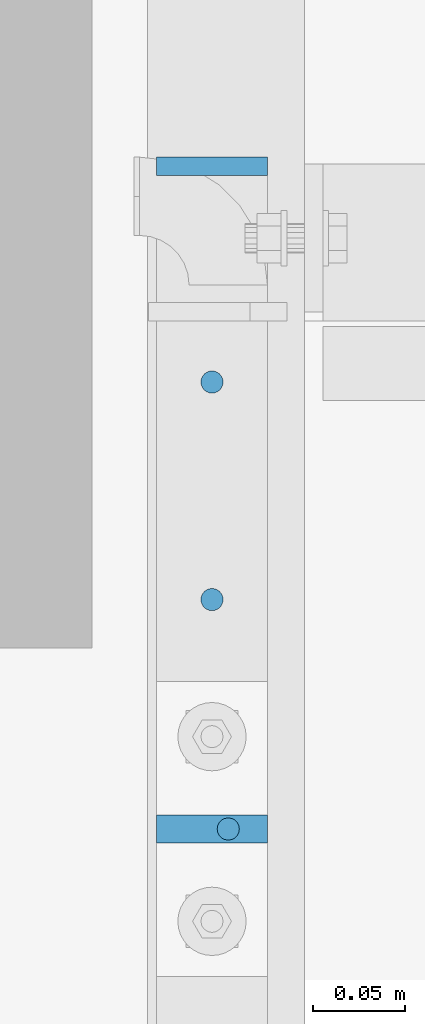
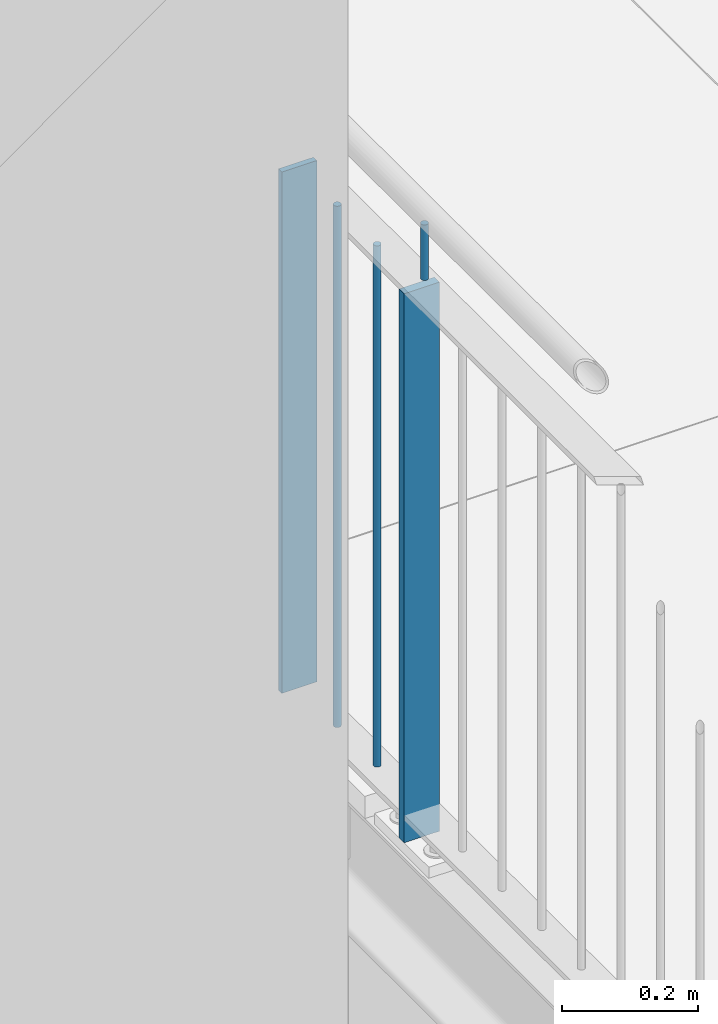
# One storey, part 17 of 825: 5 columns.
"""IFC2X3 building model written with IfcOpenShell, lengths in millimetres."""

import ifcopenshell
import ifcopenshell.guid

model = None  # the IFC model being written
_history = None  # IfcOwnerHistory: only IFC2X3 demands one
_inside = {}  # id of a spatial element -> (the spatial element, [elements in it])
_under = {}  # id of a project, library or spatial element -> (it, [spatial elements below it])
_declared = {}  # id of a project -> (the project, [libraries it declares])
_typed = {}  # id of a type object -> (the type object, [elements of that type])
_made_of = {}  # id of a material, layer set ... -> (it, [elements and type objects made of it])


def new_model(schema):
    """Start an empty IFC model of exactly this schema.

    Asked for "IFC4X3", IfcOpenShell would pick the latest addendum, in which some entities
    have other attributes; the version numbers below select the first issue.
    IFC2X3 requires an IfcOwnerHistory on every rooted entity: one is made here for all.
    """
    global model, _history
    if schema == "IFC4X3":
        model = ifcopenshell.file(schema_version=(4, 3, 0, 0))
    else:
        model = ifcopenshell.file(schema=schema)
    _inside.clear()
    _under.clear()
    _declared.clear()
    _typed.clear()
    _made_of.clear()
    _history = None
    if model.schema == "IFC2X3":
        org = make("IfcOrganization", Name="unknown")
        user = make(
            "IfcPersonAndOrganization",
            ThePerson=make("IfcPerson", FamilyName="unknown"),
            TheOrganization=org,
        )
        app = make(
            "IfcApplication",
            ApplicationDeveloper=org,
            Version="unknown",
            ApplicationFullName="unknown",
            ApplicationIdentifier="unknown",
        )
        _history = make(
            "IfcOwnerHistory",
            OwningUser=user,
            OwningApplication=app,
            ChangeAction="ADDED",
            CreationDate=0,
        )
    return model


def make(cls, **values):
    """One entity of the class cls with the attributes given. An attribute that is None is left unset."""
    return model.create_entity(
        cls, **{name: value for name, value in values.items() if value is not None}
    )


def entity(cls, *values):
    """Any entity or typed value of the class cls, its attributes in the order of the schema. None: left unset."""
    e = model.create_entity(cls)
    for i, value in enumerate(values):
        if value is not None:
            e[i] = value
    return e


def rooted(cls, **values):
    """An entity with a GlobalId (a new one), such as an element, a storey or a relation."""
    return make(cls, GlobalId=ifcopenshell.guid.new(), OwnerHistory=_history, **values)


def si_unit(unit_type, name, prefix=None):
    """IfcSIUnit, for example si_unit("LENGTHUNIT", "METRE", prefix="MILLI")."""
    return make("IfcSIUnit", UnitType=unit_type, Prefix=prefix, Name=name)


def converted_unit(unit_type, name, factor, base, dimensions=None, offset=None):
    """IfcConversionBasedUnit, such as the inch: factor (a typed value) times the base unit."""
    return make(
        "IfcConversionBasedUnit"
        if offset is None
        else "IfcConversionBasedUnitWithOffset",
        ConversionOffset=offset,
        Dimensions=None
        if dimensions is None
        else entity("IfcDimensionalExponents", *dimensions),
        UnitType=unit_type,
        Name=name,
        ConversionFactor=make(
            "IfcMeasureWithUnit", ValueComponent=factor, UnitComponent=base
        ),
    )


def assignment(units):
    """IfcUnitAssignment: the units of a project."""
    return None if units is None else make("IfcUnitAssignment", Units=units)


def point(xyz):
    """IfcCartesianPoint."""
    return None if xyz is None else make("IfcCartesianPoint", Coordinates=xyz)


def direction(xyz):
    """IfcDirection."""
    return None if xyz is None else make("IfcDirection", DirectionRatios=xyz)


def frame(location, z_axis=None, x_axis=None):
    """IfcAxis2Placement3D, a coordinate frame: its origin and axes. An axis left out is left unset."""
    return make(
        "IfcAxis2Placement3D",
        Location=point(location),
        Axis=direction(z_axis),
        RefDirection=direction(x_axis),
    )


def frame_2d(location, x_axis=None):
    """IfcAxis2Placement2D, a coordinate frame in the plane: its origin and x axis."""
    return make(
        "IfcAxis2Placement2D", Location=point(location), RefDirection=direction(x_axis)
    )


def origin():
    """The frame at (0, 0, 0) with its axes left unset."""
    return frame((0.0, 0.0, 0.0))


def origin_with_axes():
    """The frame at (0, 0, 0) with the z axis (0, 0, 1) and the x axis (1, 0, 0) written out."""
    return frame((0.0, 0.0, 0.0), z_axis=(0.0, 0.0, 1.0), x_axis=(1.0, 0.0, 0.0))


def origin_2d():
    """The frame at (0, 0) in the plane with its x axis left unset."""
    return frame_2d((0.0, 0.0))


def place(relative_to, where):
    """IfcLocalPlacement: puts the frame where relative to a parent placement (None: the world)."""
    return make(
        "IfcLocalPlacement", PlacementRelTo=relative_to, RelativePlacement=where
    )


def context(
    kind, dimensions, precision=None, world=None, true_north=None, identifier=None
):
    """IfcGeometricRepresentationContext, for example the 3D "Model" context."""
    return make(
        "IfcGeometricRepresentationContext",
        ContextIdentifier=identifier,
        ContextType=kind,
        CoordinateSpaceDimension=dimensions,
        Precision=precision,
        WorldCoordinateSystem=world,
        TrueNorth=true_north,
    )


def project(units=None, contexts=None):
    """IfcProject with its units and contexts."""
    return rooted(
        "IfcProject",
        Name="project",
        RepresentationContexts=contexts,
        UnitsInContext=assignment(units),
    )


def spatial(cls, under=None, at=None, **own):
    """A site, building, storey or space (cls), placed at a placement, below another one or the project."""
    s = rooted(cls, ObjectPlacement=at, **own)
    if under is not None:
        _under.setdefault(under.id(), (under, []))[1].append(s)
    return s


def profile(cls, at=None, kind="AREA", **sizes):
    """A parametric profile (cls). Its sizes go by their IFC names, for example OverallWidth=200.0."""
    return make(cls, ProfileType=kind, Position=at, **sizes)


def rectangle(**sizes):
    """IfcRectangleProfileDef."""
    return profile("IfcRectangleProfileDef", **sizes)


def circle(**sizes):
    """IfcCircleProfileDef."""
    return profile("IfcCircleProfileDef", **sizes)


def extrude(swept, where, along, depth):
    """IfcExtrudedAreaSolid: the profile swept, set in the frame where, extruded along a direction by depth."""
    return make(
        "IfcExtrudedAreaSolid",
        SweptArea=swept,
        Position=where,
        ExtrudedDirection=direction(along),
        Depth=depth,
    )


def clip(a, b, op="DIFFERENCE"):
    """IfcBooleanClippingResult: the solid a cut by the half space b."""
    return make(
        "IfcBooleanClippingResult", Operator=op, FirstOperand=a, SecondOperand=b
    )


def halfspace(plane, agree):
    """IfcHalfSpaceSolid: all space on one side of the plane z = 0 of the frame plane."""
    return make(
        "IfcHalfSpaceSolid",
        BaseSurface=make("IfcPlane", Position=plane),
        AgreementFlag=agree,
    )


def shape(context_of_items, identifier, shape_type, items):
    """IfcShapeRepresentation: the items that make up one representation, for example the "Body"."""
    return make(
        "IfcShapeRepresentation",
        ContextOfItems=context_of_items,
        RepresentationIdentifier=identifier,
        RepresentationType=shape_type,
        Items=items,
    )


def material(Name=None, Category=None):
    """IfcMaterial."""
    return make("IfcMaterial", Name=Name, Category=Category)


def made_of(thing, what):
    """Note that an element or type object is made of a material, layer set ...; save() writes the relation."""
    if what is not None:
        _made_of.setdefault(what.id(), (what, []))[1].append(thing)
    return thing


def element(
    cls,
    number,
    at=None,
    inside=None,
    cuts=None,
    type_object=None,
    material=None,
    context=None,
    identifier="Body",
    shape_type=None,
    held_by="IfcProductDefinitionShape",
    body=None,
    shapes=None,
    **own,
):
    """One element of the class cls, such as IfcWall. Its Tag is "e" and its number.

    at: its placement. inside: the storey or other place that contains it. cuts: it is an
    opening in that element (IfcRelVoidsElement). A single representation is given by context,
    identifier, shape_type and body (its items); several are given by shapes. held_by: the class
    of the entity that holds the representations. save() writes the other relations.
    """
    e = rooted(cls, Tag="e%d" % number, ObjectPlacement=at, **own)
    if body is not None:
        shapes = [shape(context, identifier, shape_type, body)]
    if shapes is not None:
        e.Representation = make(held_by, Representations=shapes)
    if inside is not None:
        _inside.setdefault(inside.id(), (inside, []))[1].append(e)
    if cuts is not None:
        rooted(
            "IfcRelVoidsElement", RelatingBuildingElement=cuts, RelatedOpeningElement=e
        )
    if type_object is not None:
        _typed.setdefault(type_object.id(), (type_object, []))[1].append(e)
    return made_of(e, material)


def aggregate(whole, parts):
    """IfcRelAggregates: a whole, such as a stair, and the parts it consists of."""
    return rooted("IfcRelAggregates", RelatingObject=whole, RelatedObjects=parts)


def save(model, path):
    """Write the relations noted so far, then the file.

    IfcRelAggregates (storeys below a building ...), IfcRelContainedInSpatialStructure (elements
    in a storey), IfcRelDefinesByType, IfcRelAssociatesMaterial and IfcRelDeclares: one each for
    every whole, place, type object, material and project.
    """
    for whole, parts in _under.values():
        aggregate(whole, parts)
    for where, things in _inside.values():
        rooted(
            "IfcRelContainedInSpatialStructure",
            RelatedElements=things,
            RelatingStructure=where,
        )
    for kind, things in _typed.values():
        rooted("IfcRelDefinesByType", RelatedObjects=things, RelatingType=kind)
    for what, things in _made_of.values():
        rooted("IfcRelAssociatesMaterial", RelatedObjects=things, RelatingMaterial=what)
    for by, libraries in _declared.values():
        rooted("IfcRelDeclares", RelatingContext=by, RelatedDefinitions=libraries)
    model.write(path)


model = new_model("IFC2X3")

# Units and contexts
model_context = context("Model", 3, precision=1e-09, world=origin_with_axes())
ifc_project = project(units=[si_unit("LENGTHUNIT", "METRE", prefix="MILLI"), si_unit("AREAUNIT", "SQUARE_METRE"), si_unit("VOLUMEUNIT", "CUBIC_METRE"), converted_unit("PLANEANGLEUNIT", "DEGREE", entity("IfcPlaneAngleMeasure", 0.01745329), si_unit("PLANEANGLEUNIT", "RADIAN"), dimensions=[0, 0, 0, 0, 0, 0, 0])], contexts=[model_context])

# Site, building, storey
site_placement = place(None, origin_with_axes())
site = spatial("IfcSite", under=ifc_project, at=site_placement, Name="Cnopf'sche Kinderklinik", CompositionType="ELEMENT")
building_placement = place(site_placement, origin_with_axes())
building = spatial("IfcBuilding", under=site, at=building_placement, Name="Struktur 1", CompositionType="ELEMENT")
storey_placement = place(building_placement, origin_with_axes())
storey = spatial("IfcBuildingStorey", under=building, at=storey_placement, Name="Default Storey", CompositionType="ELEMENT", Elevation=0.0)

# Columns
ifc_material = material(Name="S235JR")
column_1_placement = place(None, frame((3271.713402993, 5585.988971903, 4869.285281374), z_axis=(0.0, 0.0, -1.0), x_axis=(0.0, -1.0, 0.0)))
element("IfcColumn", 1, at=column_1_placement, inside=storey, material=ifc_material, Name="Railing_Picket_Landing#97", ObjectType="Railing_Picket_Landing#97", context=model_context, shape_type="Clipping", body=[
    clip(clip(extrude(circle(Radius=6.0, at=origin_2d()), origin(), (0.0, 0.0, 1.0), 965.770562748), halfspace(frame((5585.988971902, 3271.713402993, 13.486281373), z_axis=(0.0, 0.0, 1.0), x_axis=(0.0, 1.0, 0.0)), True)), halfspace(frame((5585.988971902, 3271.713402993, 952.284281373), z_axis=(0.0, 0.0, -1.0), x_axis=(0.0, -1.0, 0.0)), True)),
])
column_2_placement = place(None, frame((3271.713402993, 5703.786135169, 4869.285281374), z_axis=(0.0, 0.0, -1.0), x_axis=(0.0, -1.0, 0.0)))
element("IfcColumn", 2, at=column_2_placement, inside=storey, material=ifc_material, Name="Railing_Picket_Landing#96", ObjectType="Railing_Picket_Landing#96", context=model_context, shape_type="Clipping", body=[
    clip(clip(extrude(circle(Radius=6.0, at=origin_2d()), origin(), (0.0, 0.0, 1.0), 965.770562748), halfspace(frame((5703.786135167, 3271.713402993, 13.486281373), z_axis=(0.0, 0.0, 1.0), x_axis=(0.0, 1.0, 0.0)), True)), halfspace(frame((5703.786135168, 3271.713402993, 952.284281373), z_axis=(0.0, 0.0, -1.0), x_axis=(0.0, -1.0, 0.0)), True)),
])
column_3_placement = place(None, frame((3271.713402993, 5820.583298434, 3917.0), z_axis=(0.0, 0.0, -1.0), x_axis=(0.0, 1.0, 0.0)))
element("IfcColumn", 3, at=column_3_placement, inside=storey, material=ifc_material, Name="Railing_Kneerail_Landing#22", ObjectType="Railing_Kneerail_Landing#22", context=model_context, shape_type="SweptSolid", body=[
    extrude(rectangle(XDim=10.0, YDim=60.0, at=origin_2d()), origin(), (0.0, 0.0, -1.0), 938.8),
])
column_4_placement = place(None, frame((3271.713402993, 5461.738971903, 4886.723292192), z_axis=(0.0, 0.0, 1.0), x_axis=(0.0, 1.0, 0.0)))
element("IfcColumn", 4, at=column_4_placement, inside=storey, material=ifc_material, Name="Railing_Post_Landing#13", ObjectType="Railing_Post_Landing#13", context=model_context, shape_type="Clipping", body=[
    clip(clip(extrude(rectangle(XDim=15.0, YDim=60.0, at=origin_2d()), origin(), (0.0, 0.0, -1.0), 1070.646584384), halfspace(frame((-5461.738971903, 3271.713402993, -1019.722292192), z_axis=(0.0, 0.0, 1.0), x_axis=(0.0, -1.0, 0.0)), True)), halfspace(frame((-5461.738971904, 3271.713402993, -30.924292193), z_axis=(0.0, 0.0, -1.0), x_axis=(0.0, 1.0, 0.0)), True)),
])
column_5_placement = place(None, frame((3280.513402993, 5461.738971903, 4974.285281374), z_axis=(0.0, 0.0, 1.0), x_axis=(1.0, 0.0, 0.0)))
element("IfcColumn", 5, at=column_5_placement, inside=storey, material=ifc_material, Name="Bar#13", ObjectType="Bar#13", context=model_context, shape_type="Clipping", body=[
    clip(clip(extrude(circle(Radius=6.0, at=origin_2d()), origin(), (0.0, 0.0, -1.0), 116.970562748), halfspace(frame((-3280.513402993, -5461.738971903, -8.486281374), z_axis=(0.0, 0.0, -1.0), x_axis=(-1.0, 0.0, 0.0)), True)), halfspace(frame((-3280.513402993, -5461.738971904, -108.484281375), z_axis=(0.0, 0.0, 1.0), x_axis=(1.0, 0.0, 0.0)), True)),
])

save(model, "model.ifc")
